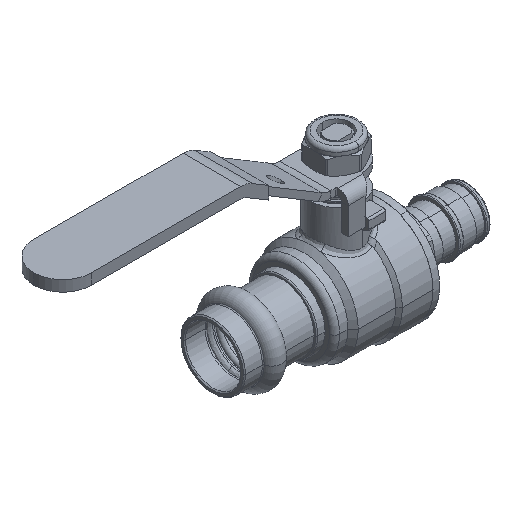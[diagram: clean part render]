
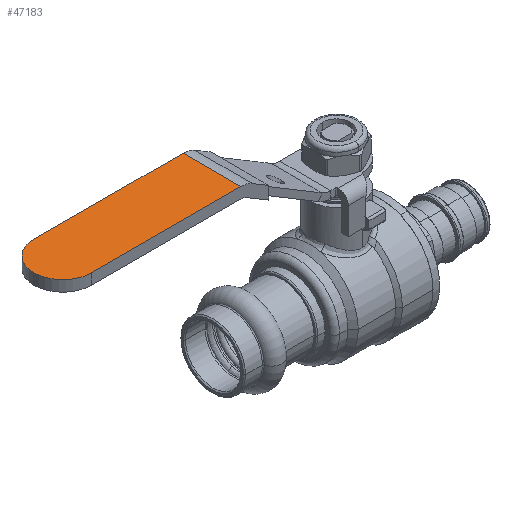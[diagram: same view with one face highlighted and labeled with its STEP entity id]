
A CAD part, isometric view. The second image highlights one B-rep face of the part: STEP entity #47183.
In plain terms, the highlighted planar face has unit normal (0, 0, 1).
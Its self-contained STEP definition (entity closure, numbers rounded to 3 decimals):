
#46667 = PLANE('',#46668);
#46668 = AXIS2_PLACEMENT_3D('',#46669,#46670,#46671);
#46669 = CARTESIAN_POINT('',(-36.668,-17.185,
    44.661));
#46670 = DIRECTION('',(0.,1.,0.));
#46671 = DIRECTION('',(0.,0.,-1.));
#46696 = CYLINDRICAL_SURFACE('',#46697,8.5);
#46697 = AXIS2_PLACEMENT_3D('',#46698,#46699,#46700);
#46698 = CARTESIAN_POINT('',(-80.604,-8.685,
    48.061));
#46699 = DIRECTION('',(0.,0.,-1.));
#46700 = DIRECTION('',(1.,0.,0.));
#46725 = CYLINDRICAL_SURFACE('',#46726,8.5);
#46726 = AXIS2_PLACEMENT_3D('',#46727,#46728,#46729);
#46727 = CARTESIAN_POINT('',(-80.604,-8.685,
    44.661));
#46728 = DIRECTION('',(0.,0.,1.));
#46729 = DIRECTION('',(-1.,0.,0.));
#46753 = PLANE('',#46754);
#46754 = AXIS2_PLACEMENT_3D('',#46755,#46756,#46757);
#46755 = CARTESIAN_POINT('',(-36.668,-0.185,
    44.661));
#46756 = DIRECTION('',(0.,1.,0.));
#46757 = DIRECTION('',(0.,0.,-1.));
#47073 = CYLINDRICAL_SURFACE('',#47074,6.6);
#47074 = AXIS2_PLACEMENT_3D('',#47075,#47076,#47077);
#47075 = CARTESIAN_POINT('',(-36.668,-17.185,
    44.661));
#47076 = DIRECTION('',(0.,1.,0.));
#47077 = DIRECTION('',(0.,0.,-1.));
#47111 = VERTEX_POINT('',#47112);
#47112 = CARTESIAN_POINT('',(-36.668,-0.185,
    51.261));
#47134 = EDGE_CURVE('',#47135,#47111,#47137,.T.);
#47135 = VERTEX_POINT('',#47136);
#47136 = CARTESIAN_POINT('',(-36.668,-17.185,
    51.261));
#47137 = SURFACE_CURVE('',#47138,(#47142,#47149),.PCURVE_S1.);
#47138 = LINE('',#47139,#47140);
#47139 = CARTESIAN_POINT('',(-36.668,-17.185,
    51.261));
#47140 = VECTOR('',#47141,1.);
#47141 = DIRECTION('',(0.,1.,0.));
#47142 = PCURVE('',#47073,#47143);
#47143 = DEFINITIONAL_REPRESENTATION('',(#47144),#47148);
#47144 = LINE('',#47145,#47146);
#47145 = CARTESIAN_POINT('',(3.142,0.));
#47146 = VECTOR('',#47147,1.);
#47147 = DIRECTION('',(0.,1.));
#47148 = ( GEOMETRIC_REPRESENTATION_CONTEXT(2) 
PARAMETRIC_REPRESENTATION_CONTEXT() REPRESENTATION_CONTEXT('2D SPACE',''
  ) );
#47149 = PCURVE('',#47150,#47155);
#47150 = PLANE('',#47151);
#47151 = AXIS2_PLACEMENT_3D('',#47152,#47153,#47154);
#47152 = CARTESIAN_POINT('',(-89.104,-17.185,
    51.261));
#47153 = DIRECTION('',(0.,0.,1.));
#47154 = DIRECTION('',(-1.,0.,0.));
#47155 = DEFINITIONAL_REPRESENTATION('',(#47156),#47160);
#47156 = LINE('',#47157,#47158);
#47157 = CARTESIAN_POINT('',(-52.436,-0.));
#47158 = VECTOR('',#47159,1.);
#47159 = DIRECTION('',(0.,-1.));
#47160 = ( GEOMETRIC_REPRESENTATION_CONTEXT(2) 
PARAMETRIC_REPRESENTATION_CONTEXT() REPRESENTATION_CONTEXT('2D SPACE',''
  ) );
#47183 = ADVANCED_FACE('',(#47184),#47150,.T.);
#47184 = FACE_BOUND('',#47185,.T.);
#47185 = EDGE_LOOP('',(#47186,#47212,#47236,#47257,#47258));
#47186 = ORIENTED_EDGE('',*,*,#47187,.T.);
#47187 = EDGE_CURVE('',#47188,#47190,#47192,.T.);
#47188 = VERTEX_POINT('',#47189);
#47189 = CARTESIAN_POINT('',(-80.604,-0.185,
    51.261));
#47190 = VERTEX_POINT('',#47191);
#47191 = CARTESIAN_POINT('',(-89.104,-8.685,
    51.261));
#47192 = SURFACE_CURVE('',#47193,(#47198,#47205),.PCURVE_S1.);
#47193 = CIRCLE('',#47194,8.5);
#47194 = AXIS2_PLACEMENT_3D('',#47195,#47196,#47197);
#47195 = CARTESIAN_POINT('',(-80.604,-8.685,
    51.261));
#47196 = DIRECTION('',(0.,0.,1.));
#47197 = DIRECTION('',(-1.,0.,0.));
#47198 = PCURVE('',#47150,#47199);
#47199 = DEFINITIONAL_REPRESENTATION('',(#47200),#47204);
#47200 = CIRCLE('',#47201,8.5);
#47201 = AXIS2_PLACEMENT_2D('',#47202,#47203);
#47202 = CARTESIAN_POINT('',(-8.5,-8.5));
#47203 = DIRECTION('',(1.,0.));
#47204 = ( GEOMETRIC_REPRESENTATION_CONTEXT(2) 
PARAMETRIC_REPRESENTATION_CONTEXT() REPRESENTATION_CONTEXT('2D SPACE',''
  ) );
#47205 = PCURVE('',#46725,#47206);
#47206 = DEFINITIONAL_REPRESENTATION('',(#47207),#47211);
#47207 = LINE('',#47208,#47209);
#47208 = CARTESIAN_POINT('',(0.,6.6));
#47209 = VECTOR('',#47210,1.);
#47210 = DIRECTION('',(1.,0.));
#47211 = ( GEOMETRIC_REPRESENTATION_CONTEXT(2) 
PARAMETRIC_REPRESENTATION_CONTEXT() REPRESENTATION_CONTEXT('2D SPACE',''
  ) );
#47212 = ORIENTED_EDGE('',*,*,#47213,.T.);
#47213 = EDGE_CURVE('',#47190,#47214,#47216,.T.);
#47214 = VERTEX_POINT('',#47215);
#47215 = CARTESIAN_POINT('',(-80.604,-17.185,
    51.261));
#47216 = SURFACE_CURVE('',#47217,(#47222,#47229),.PCURVE_S1.);
#47217 = CIRCLE('',#47218,8.5);
#47218 = AXIS2_PLACEMENT_3D('',#47219,#47220,#47221);
#47219 = CARTESIAN_POINT('',(-80.604,-8.685,
    51.261));
#47220 = DIRECTION('',(0.,0.,1.));
#47221 = DIRECTION('',(-1.,0.,0.));
#47222 = PCURVE('',#47150,#47223);
#47223 = DEFINITIONAL_REPRESENTATION('',(#47224),#47228);
#47224 = CIRCLE('',#47225,8.5);
#47225 = AXIS2_PLACEMENT_2D('',#47226,#47227);
#47226 = CARTESIAN_POINT('',(-8.5,-8.5));
#47227 = DIRECTION('',(1.,0.));
#47228 = ( GEOMETRIC_REPRESENTATION_CONTEXT(2) 
PARAMETRIC_REPRESENTATION_CONTEXT() REPRESENTATION_CONTEXT('2D SPACE',''
  ) );
#47229 = PCURVE('',#46696,#47230);
#47230 = DEFINITIONAL_REPRESENTATION('',(#47231),#47235);
#47231 = LINE('',#47232,#47233);
#47232 = CARTESIAN_POINT('',(3.142,-3.2));
#47233 = VECTOR('',#47234,1.);
#47234 = DIRECTION('',(-1.,0.));
#47235 = ( GEOMETRIC_REPRESENTATION_CONTEXT(2) 
PARAMETRIC_REPRESENTATION_CONTEXT() REPRESENTATION_CONTEXT('2D SPACE',''
  ) );
#47236 = ORIENTED_EDGE('',*,*,#47237,.T.);
#47237 = EDGE_CURVE('',#47214,#47135,#47238,.T.);
#47238 = SURFACE_CURVE('',#47239,(#47243,#47250),.PCURVE_S1.);
#47239 = LINE('',#47240,#47241);
#47240 = CARTESIAN_POINT('',(-89.104,-17.185,
    51.261));
#47241 = VECTOR('',#47242,1.);
#47242 = DIRECTION('',(1.,0.,0.));
#47243 = PCURVE('',#47150,#47244);
#47244 = DEFINITIONAL_REPRESENTATION('',(#47245),#47249);
#47245 = LINE('',#47246,#47247);
#47246 = CARTESIAN_POINT('',(0.,-0.));
#47247 = VECTOR('',#47248,1.);
#47248 = DIRECTION('',(-1.,-0.));
#47249 = ( GEOMETRIC_REPRESENTATION_CONTEXT(2) 
PARAMETRIC_REPRESENTATION_CONTEXT() REPRESENTATION_CONTEXT('2D SPACE',''
  ) );
#47250 = PCURVE('',#46667,#47251);
#47251 = DEFINITIONAL_REPRESENTATION('',(#47252),#47256);
#47252 = LINE('',#47253,#47254);
#47253 = CARTESIAN_POINT('',(-6.6,52.436));
#47254 = VECTOR('',#47255,1.);
#47255 = DIRECTION('',(0.,-1.));
#47256 = ( GEOMETRIC_REPRESENTATION_CONTEXT(2) 
PARAMETRIC_REPRESENTATION_CONTEXT() REPRESENTATION_CONTEXT('2D SPACE',''
  ) );
#47257 = ORIENTED_EDGE('',*,*,#47134,.T.);
#47258 = ORIENTED_EDGE('',*,*,#47259,.F.);
#47259 = EDGE_CURVE('',#47188,#47111,#47260,.T.);
#47260 = SURFACE_CURVE('',#47261,(#47265,#47272),.PCURVE_S1.);
#47261 = LINE('',#47262,#47263);
#47262 = CARTESIAN_POINT('',(-89.104,-0.185,
    51.261));
#47263 = VECTOR('',#47264,1.);
#47264 = DIRECTION('',(1.,0.,0.));
#47265 = PCURVE('',#47150,#47266);
#47266 = DEFINITIONAL_REPRESENTATION('',(#47267),#47271);
#47267 = LINE('',#47268,#47269);
#47268 = CARTESIAN_POINT('',(0.,-17.));
#47269 = VECTOR('',#47270,1.);
#47270 = DIRECTION('',(-1.,-0.));
#47271 = ( GEOMETRIC_REPRESENTATION_CONTEXT(2) 
PARAMETRIC_REPRESENTATION_CONTEXT() REPRESENTATION_CONTEXT('2D SPACE',''
  ) );
#47272 = PCURVE('',#46753,#47273);
#47273 = DEFINITIONAL_REPRESENTATION('',(#47274),#47278);
#47274 = LINE('',#47275,#47276);
#47275 = CARTESIAN_POINT('',(-6.6,52.436));
#47276 = VECTOR('',#47277,1.);
#47277 = DIRECTION('',(0.,-1.));
#47278 = ( GEOMETRIC_REPRESENTATION_CONTEXT(2) 
PARAMETRIC_REPRESENTATION_CONTEXT() REPRESENTATION_CONTEXT('2D SPACE',''
  ) );
